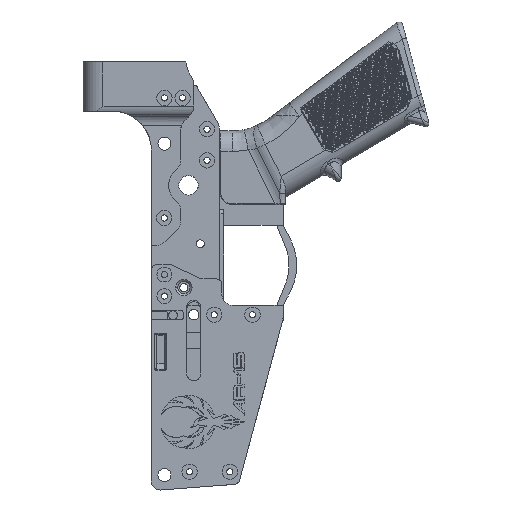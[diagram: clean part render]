
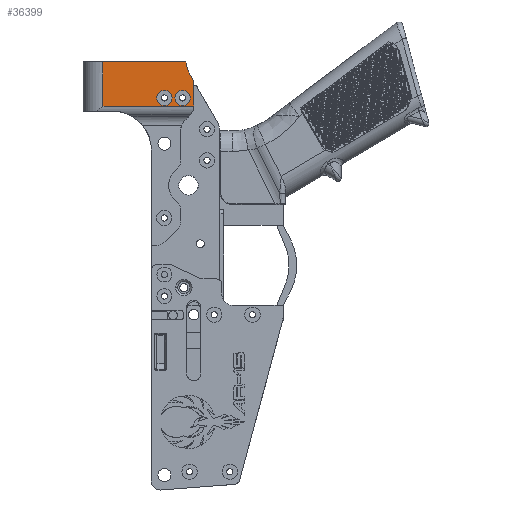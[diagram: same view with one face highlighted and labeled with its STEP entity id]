
A CAD part, left-side view. The second image highlights one B-rep face of the part: STEP entity #36399.
In plain terms, the highlighted planar face has unit normal (-1, 0, 0).
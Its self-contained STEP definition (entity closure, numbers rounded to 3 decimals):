
#2445 = VERTEX_POINT ( 'NONE', #22152 ) ;
#7404 = CARTESIAN_POINT ( 'NONE',  ( -25., -22.327, -2.6 ) ) ;
#9548 = VERTEX_POINT ( 'NONE', #223083 ) ;
#11236 = DIRECTION ( 'NONE',  ( 0., 0., 1. ) ) ;
#14212 = EDGE_CURVE ( 'NONE', #79914, #190352, #133323, .T. ) ;
#16542 = VECTOR ( 'NONE', #35903, 1000. ) ;
#19697 = AXIS2_PLACEMENT_3D ( 'NONE', #147496, #169109, #11236 ) ;
#22152 = CARTESIAN_POINT ( 'NONE',  ( -25., -31.217, -2.6 ) ) ;
#22338 = ORIENTED_EDGE ( 'NONE', *, *, #72112, .T. ) ;
#28030 = VECTOR ( 'NONE', #147151, 1000. ) ;
#28779 = EDGE_LOOP ( 'NONE', ( #66641, #231223 ) ) ;
#32515 = CARTESIAN_POINT ( 'NONE',  ( -25., 7.678, -12.776 ) ) ;
#34402 = DIRECTION ( 'NONE',  ( 0., 0., -1. ) ) ;
#35903 = DIRECTION ( 'NONE',  ( 0., 1., 0. ) ) ;
#36399 = ADVANCED_FACE ( 'NONE', ( #99533, #118607, #138964 ), #62586, .F. ) ;
#36466 = DIRECTION ( 'NONE',  ( 0., 0., 1. ) ) ;
#38427 = DIRECTION ( 'NONE',  ( 0., 0., -1. ) ) ;
#39741 = AXIS2_PLACEMENT_3D ( 'NONE', #173158, #252049, #34402 ) ;
#45453 = AXIS2_PLACEMENT_3D ( 'NONE', #243087, #161741, #86570 ) ;
#55024 = CARTESIAN_POINT ( 'NONE',  ( -25., -36.779, 11.224 ) ) ;
#59828 = ORIENTED_EDGE ( 'NONE', *, *, #236438, .T. ) ;
#61469 = CARTESIAN_POINT ( 'NONE',  ( -25., 7.678, -10.291 ) ) ;
#62586 = PLANE ( 'NONE',  #234591 ) ;
#64016 = ORIENTED_EDGE ( 'NONE', *, *, #120897, .T. ) ;
#66641 = ORIENTED_EDGE ( 'NONE', *, *, #238165, .F. ) ;
#69650 = DIRECTION ( 'NONE',  ( 0., -1., 0. ) ) ;
#70523 = CARTESIAN_POINT ( 'NONE',  ( -25., -22.327, -6.35 ) ) ;
#72112 = EDGE_CURVE ( 'NONE', #129055, #162870, #235820, .T. ) ;
#74737 = DIRECTION ( 'NONE',  ( -1., 0., 0. ) ) ;
#76692 = DIRECTION ( 'NONE',  ( 1., 0., 0. ) ) ;
#79914 = VERTEX_POINT ( 'NONE', #97826 ) ;
#80661 = CIRCLE ( 'NONE', #19697, 3.75 ) ;
#86570 = DIRECTION ( 'NONE',  ( 0., 0., 1. ) ) ;
#89040 = ORIENTED_EDGE ( 'NONE', *, *, #127249, .F. ) ;
#90148 = VERTEX_POINT ( 'NONE', #7404 ) ;
#92124 = DIRECTION ( 'NONE',  ( 0., 0., 1. ) ) ;
#95063 = CARTESIAN_POINT ( 'NONE',  ( -25., -31.217, -6.35 ) ) ;
#97826 = CARTESIAN_POINT ( 'NONE',  ( -25., -34.789, 5.207 ) ) ;
#98879 = CARTESIAN_POINT ( 'NONE',  ( -25., -31.217, -10.1 ) ) ;
#99533 = FACE_BOUND ( 'NONE', #111237, .T. ) ;
#104086 = CARTESIAN_POINT ( 'NONE',  ( -25., -32.853, 11.224 ) ) ;
#106445 = LINE ( 'NONE', #32515, #28030 ) ;
#107863 = LINE ( 'NONE', #221198, #193789 ) ;
#111237 = EDGE_LOOP ( 'NONE', ( #89040, #183674 ) ) ;
#111904 = AXIS2_PLACEMENT_3D ( 'NONE', #95063, #74737, #36466 ) ;
#115706 = EDGE_CURVE ( 'NONE', #228647, #129055, #107863, .T. ) ;
#118607 = FACE_BOUND ( 'NONE', #28779, .T. ) ;
#120897 = EDGE_CURVE ( 'NONE', #181221, #228647, #106445, .T. ) ;
#125335 = EDGE_CURVE ( 'NONE', #190352, #181221, #210360, .T. ) ;
#127249 = EDGE_CURVE ( 'NONE', #2445, #129914, #167408, .T. ) ;
#129055 = VERTEX_POINT ( 'NONE', #195296 ) ;
#129914 = VERTEX_POINT ( 'NONE', #98879 ) ;
#133323 = CIRCLE ( 'NONE', #39741, 15. ) ;
#138964 = FACE_OUTER_BOUND ( 'NONE', #240531, .T. ) ;
#141485 = CARTESIAN_POINT ( 'NONE',  ( -25., -32.779, 8.688 ) ) ;
#147022 = CARTESIAN_POINT ( 'NONE',  ( -25., -36.779, 1.76 ) ) ;
#147151 = DIRECTION ( 'NONE',  ( 0., 0., -1. ) ) ;
#147496 = CARTESIAN_POINT ( 'NONE',  ( -25., -22.327, -6.35 ) ) ;
#156802 = CIRCLE ( 'NONE', #111904, 3.75 ) ;
#161741 = DIRECTION ( 'NONE',  ( -1., 0., 0. ) ) ;
#161764 = CIRCLE ( 'NONE', #194270, 3.75 ) ;
#162870 = VERTEX_POINT ( 'NONE', #147022 ) ;
#163106 = LINE ( 'NONE', #141485, #218390 ) ;
#163788 = ORIENTED_EDGE ( 'NONE', *, *, #14212, .T. ) ;
#167408 = CIRCLE ( 'NONE', #45453, 3.75 ) ;
#169109 = DIRECTION ( 'NONE',  ( -1., 0., 0. ) ) ;
#173158 = CARTESIAN_POINT ( 'NONE',  ( -25., -47.779, 12.707 ) ) ;
#173669 = EDGE_CURVE ( 'NONE', #9548, #90148, #161764, .T. ) ;
#176028 = CARTESIAN_POINT ( 'NONE',  ( -25., -36.779, -288600.29 ) ) ;
#181221 = VERTEX_POINT ( 'NONE', #244963 ) ;
#183674 = ORIENTED_EDGE ( 'NONE', *, *, #251982, .F. ) ;
#190352 = VERTEX_POINT ( 'NONE', #104086 ) ;
#193783 = CARTESIAN_POINT ( 'NONE',  ( -25., -36.779, -288600.29 ) ) ;
#193789 = VECTOR ( 'NONE', #69650, 1000. ) ;
#194270 = AXIS2_PLACEMENT_3D ( 'NONE', #70523, #222078, #92124 ) ;
#195296 = CARTESIAN_POINT ( 'NONE',  ( -25., -36.779, -10.291 ) ) ;
#208362 = ORIENTED_EDGE ( 'NONE', *, *, #125335, .T. ) ;
#210360 = LINE ( 'NONE', #55024, #16542 ) ;
#210747 = ORIENTED_EDGE ( 'NONE', *, *, #115706, .T. ) ;
#218390 = VECTOR ( 'NONE', #236952, 1000. ) ;
#219205 = VECTOR ( 'NONE', #237064, 1000. ) ;
#221198 = CARTESIAN_POINT ( 'NONE',  ( -25., -36.779, -10.291 ) ) ;
#222078 = DIRECTION ( 'NONE',  ( -1., 0., 0. ) ) ;
#223083 = CARTESIAN_POINT ( 'NONE',  ( -25., -22.327, -10.1 ) ) ;
#228647 = VERTEX_POINT ( 'NONE', #61469 ) ;
#231223 = ORIENTED_EDGE ( 'NONE', *, *, #173669, .F. ) ;
#234591 = AXIS2_PLACEMENT_3D ( 'NONE', #193783, #76692, #38427 ) ;
#235820 = LINE ( 'NONE', #176028, #219205 ) ;
#236438 = EDGE_CURVE ( 'NONE', #162870, #79914, #163106, .T. ) ;
#236952 = DIRECTION ( 'NONE',  ( 0., 0.5, 0.866 ) ) ;
#237064 = DIRECTION ( 'NONE',  ( 0., 0., 1. ) ) ;
#238165 = EDGE_CURVE ( 'NONE', #90148, #9548, #80661, .T. ) ;
#240531 = EDGE_LOOP ( 'NONE', ( #64016, #210747, #22338, #59828, #163788, #208362 ) ) ;
#243087 = CARTESIAN_POINT ( 'NONE',  ( -25., -31.217, -6.35 ) ) ;
#244963 = CARTESIAN_POINT ( 'NONE',  ( -25., 7.678, 11.224 ) ) ;
#251982 = EDGE_CURVE ( 'NONE', #129914, #2445, #156802, .T. ) ;
#252049 = DIRECTION ( 'NONE',  ( 1., 0., 0. ) ) ;
